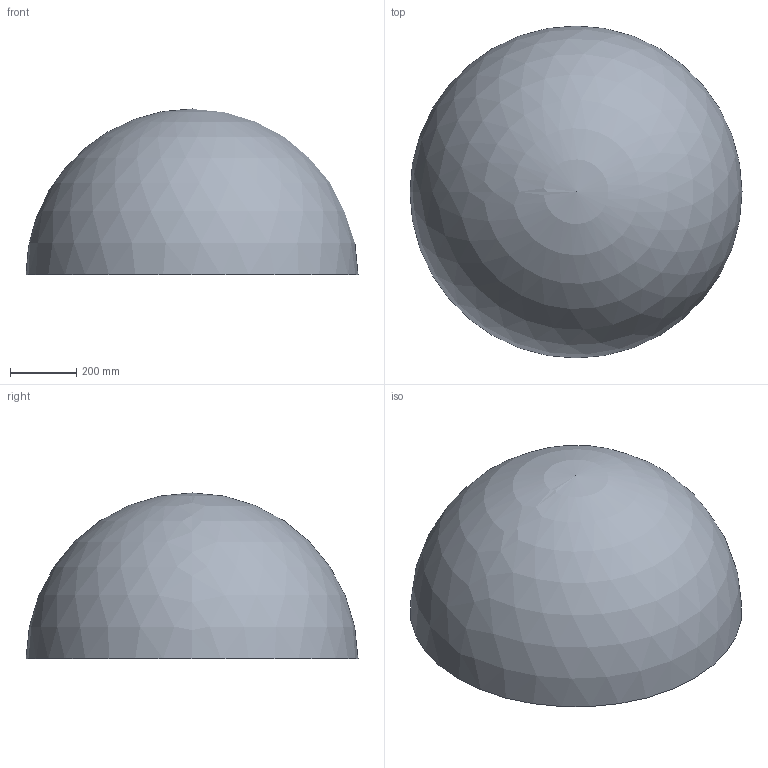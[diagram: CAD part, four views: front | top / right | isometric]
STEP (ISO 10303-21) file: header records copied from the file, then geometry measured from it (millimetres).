
FILE_DESCRIPTION(/* description */ (''),/* implementation_level */ '2;1');
FILE_NAME(/* name */ 'C:/00_Temp/dome.step',/* time_stamp */ '2020-02-28T07:12:04-08:00',/* author */ (''),/* organization */ (''),/* preprocessor_version */ 'ST-DEVELOPER v18',/* originating_system */ 'Autodesk Translation Framework v8.12.0.6',/* authorisation */ '');
FILE_SCHEMA (('AUTOMOTIVE_DESIGN { 1 0 10303 214 3 1 1 }'));
Length unit declared in the file: millimetre
Products named in the file (1): FusionComponent
Bounding box: 1000 x 1000 x 500 mm (x, y, z)
Volume: 255799387.8 mm3; surface area: 2576194.5 mm2
Topology: 1 solids, 2 shells, 8 faces, 15 edges, 10 vertices
Faces by surface type: plane 7, sphere 1
Entity records: 227 total; most frequent: DIRECTION 34, CARTESIAN_POINT 33, ORIENTED_EDGE 28, EDGE_CURVE 14, LINE 12, VECTOR 12, AXIS2_PLACEMENT_3D 11, VERTEX_POINT 10
